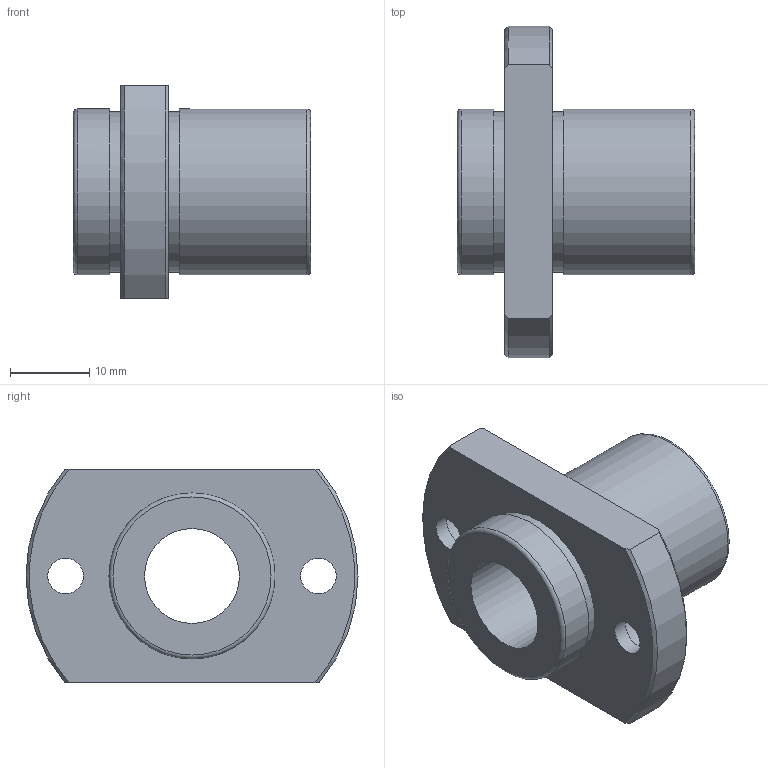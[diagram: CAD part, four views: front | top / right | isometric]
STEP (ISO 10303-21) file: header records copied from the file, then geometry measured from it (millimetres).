
FILE_DESCRIPTION(('STEP AP203'),'1');
FILE_NAME('//192.168.1.1/share/s-4 技術開発/s-4-4_CAD/s-4-4-3_見直し済み/002 修正済み/NFIO-V(済)/NFIO-V_TOP/NFIO-12VUU.step','2022-03-08T01:22:30',(' '),(' '),'Spatial InterOp 3D',' ',' ');
FILE_SCHEMA(('CONFIG_CONTROL_DESIGN'));
Length unit declared in the file: millimetre
Products named in the file (1): 1
Bounding box: 30 x 42 x 27 mm (x, y, z)
Volume: 10717.9 mm3; surface area: 5537.5 mm2
Topology: 1 solids, 1 shells, 27 faces, 59 edges, 40 vertices
Faces by surface type: cylinder 11, plane 10, cone 4, torus 2
Full cylindrical faces by diameter (mm): 4.5 x2, 7.5 x2, 12 x1, 20.3 x2, 21 x2
Entity records: 730 total; most frequent: CARTESIAN_POINT 132, DIRECTION 120, ORIENTED_EDGE 88, AXIS2_PLACEMENT_3D 56, EDGE_LOOP 50, EDGE_CURVE 44, FACE_OUTER_BOUND 38, VERTEX_POINT 36
